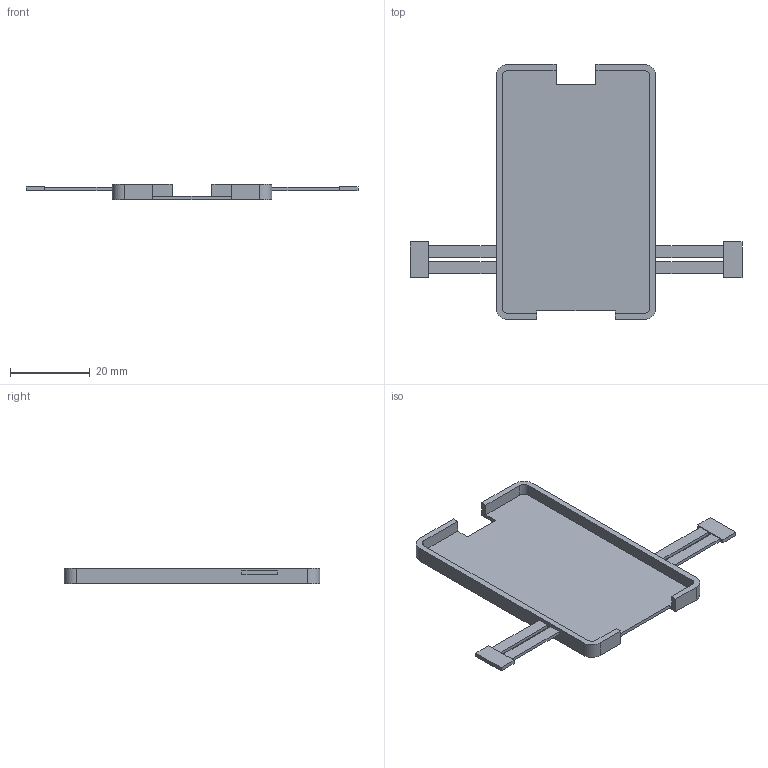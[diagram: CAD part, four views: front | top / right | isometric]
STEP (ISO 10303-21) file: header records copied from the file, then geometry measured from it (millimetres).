
FILE_DESCRIPTION(('Open CASCADE Model'),'2;1');
FILE_NAME('Open CASCADE Shape Model','2026-09-06T11:30:37',('Author'),( 'Open CASCADE'),'Open CASCADE STEP processor 7.7','Open CASCADE 7.7' ,'Unknown');
FILE_SCHEMA(('AUTOMOTIVE_DESIGN { 1 0 10303 214 1 1 1 1 }'));
Length unit declared in the file: millimetre
Products named in the file (1): Open CASCADE STEP translator 7.7 20
Bounding box: 83.2 x 64 x 3.9 mm (x, y, z)
Volume: 3217.7 mm3; surface area: 6860.7 mm2
Topology: 1 solids, 1 shells, 54 faces, 156 edges, 104 vertices
Faces by surface type: plane 46, cylinder 8
Entity records: 3814 total; most frequent: CARTESIAN_POINT 651, DIRECTION 590, LINE 436, VECTOR 436, ORIENTED_EDGE 312, PCURVE 312, DEFINITIONAL_REPRESENTATION 312, EDGE_CURVE 156
